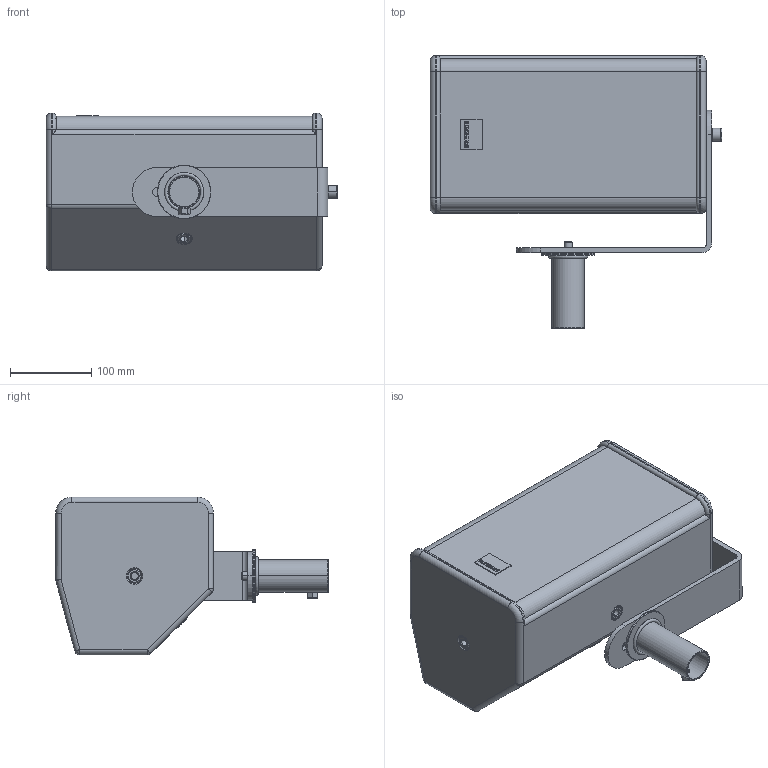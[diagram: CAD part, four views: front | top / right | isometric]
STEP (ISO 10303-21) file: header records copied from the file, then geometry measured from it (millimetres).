
FILE_DESCRIPTION (( 'STEP AP203' ), '1' );
FILE_NAME ('Seeburg_TSNano_J-Bracket_hor.STEP', '2012-10-17T12:21:45', ( 'Fabian' ), ( '' ), 'SwSTEP 2.0', 'SolidWorks 2009', '' );
FILE_SCHEMA (( 'CONFIG_CONTROL_DESIGN' ));
Length unit declared in the file: millimetre
Products named in the file (15): Seeburg_TSNano_J-Bracket_hor; Imported160; Imported161; TSNano_J-Bracket-hor; Imported157; Imported158; Imported159; Imported162; Imported166; Imported163; Imported164; Imported165; Imported167; Imported168; Imported169
Assembly tree (14 placements, depth 3):
  Seeburg_TSNano_J-Bracket_hor
    TSNano_J-Bracket-hor
      Imported166
      Imported164
      Imported168
      Imported159
      Imported163
      Imported157
      Imported160
      Imported167
      Imported161
      Imported165
      Imported169
      Imported158
      Imported162
Bounding box: 358.3 x 335 x 194 mm (x, y, z)
Volume: 4538532.4 mm3; surface area: 745593.8 mm2
Topology: 21 solids, 21 shells, 467 faces, 1135 edges, 723 vertices
Faces by surface type: cylinder 212, plane 163, cone 64, torus 18, sphere 10
Entity records: 15908 total; most frequent: CARTESIAN_POINT 2982, DIRECTION 2562, ORIENTED_EDGE 2254, EDGE_CURVE 1127, AXIS2_PLACEMENT_3D 991, VERTEX_POINT 719, VECTOR 580, LINE 580
